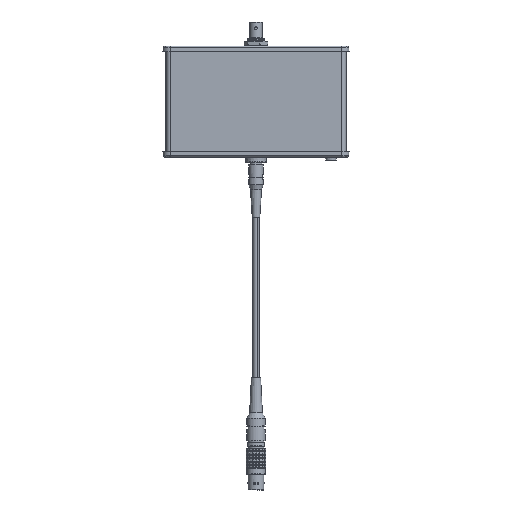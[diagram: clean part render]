
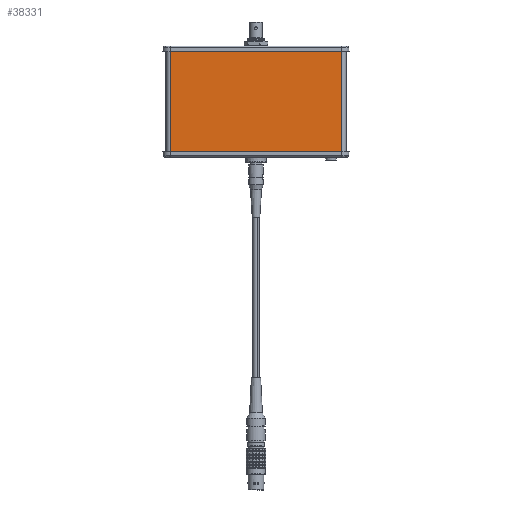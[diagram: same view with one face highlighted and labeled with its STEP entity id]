
A CAD part, front view. The second image highlights one B-rep face of the part: STEP entity #38331.
In plain terms, the highlighted planar face has unit normal (0, -1, 0).
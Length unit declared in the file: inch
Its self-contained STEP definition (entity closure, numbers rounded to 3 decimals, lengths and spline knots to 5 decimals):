
#12291 = VERTEX_POINT ( 'NONE', #71921 ) ;
#15560 = DIRECTION ( 'NONE',  ( 1., 0., 0. ) ) ;
#15673 = EDGE_CURVE ( 'NONE', #36241, #12291, #40127, .T. ) ;
#17485 = LINE ( 'NONE', #38500, #52951 ) ;
#19056 = ORIENTED_EDGE ( 'NONE', *, *, #65999, .T. ) ;
#20121 = LINE ( 'NONE', #34292, #89465 ) ;
#20718 = PLANE ( 'NONE',  #39226 ) ;
#21487 = EDGE_CURVE ( 'NONE', #40404, #64935, #17485, .T. ) ;
#28988 = DIRECTION ( 'NONE',  ( 0., 1., 0. ) ) ;
#30493 = LINE ( 'NONE', #60410, #61867 ) ;
#34292 = CARTESIAN_POINT ( 'NONE',  ( -2.5765, -0.68898, -1.5748 ) ) ;
#36241 = VERTEX_POINT ( 'NONE', #64483 ) ;
#38184 = VECTOR ( 'NONE', #63611, 39.37008 ) ;
#38331 = ADVANCED_FACE ( 'NONE', ( #64759 ), #20718, .F. ) ;
#38500 = CARTESIAN_POINT ( 'NONE',  ( 0., -0.68898, -1.5748 ) ) ;
#39226 = AXIS2_PLACEMENT_3D ( 'NONE', #73984, #28988, #88167 ) ;
#40127 = LINE ( 'NONE', #78721, #38184 ) ;
#40404 = VERTEX_POINT ( 'NONE', #73507 ) ;
#52951 = VECTOR ( 'NONE', #15560, 39.37008 ) ;
#58545 = ORIENTED_EDGE ( 'NONE', *, *, #15673, .F. ) ;
#60410 = CARTESIAN_POINT ( 'NONE',  ( 2.5765, -0.68898, 1.5748 ) ) ;
#61867 = VECTOR ( 'NONE', #75498, 39.37008 ) ;
#62317 = ORIENTED_EDGE ( 'NONE', *, *, #64609, .T. ) ;
#63611 = DIRECTION ( 'NONE',  ( 1., 0., 0. ) ) ;
#63712 = ORIENTED_EDGE ( 'NONE', *, *, #21487, .T. ) ;
#64483 = CARTESIAN_POINT ( 'NONE',  ( -2.5765, -0.68898, 1.5748 ) ) ;
#64609 = EDGE_CURVE ( 'NONE', #64935, #12291, #30493, .T. ) ;
#64759 = FACE_OUTER_BOUND ( 'NONE', #64825, .T. ) ;
#64825 = EDGE_LOOP ( 'NONE', ( #58545, #19056, #63712, #62317 ) ) ;
#64935 = VERTEX_POINT ( 'NONE', #77678 ) ;
#65999 = EDGE_CURVE ( 'NONE', #36241, #40404, #20121, .T. ) ;
#71921 = CARTESIAN_POINT ( 'NONE',  ( 2.5765, -0.68898, 1.5748 ) ) ;
#73507 = CARTESIAN_POINT ( 'NONE',  ( -2.5765, -0.68898, -1.5748 ) ) ;
#73984 = CARTESIAN_POINT ( 'NONE',  ( 0., -0.68898, 1.5748 ) ) ;
#75498 = DIRECTION ( 'NONE',  ( 0., 0., 1. ) ) ;
#77678 = CARTESIAN_POINT ( 'NONE',  ( 2.5765, -0.68898, -1.5748 ) ) ;
#78721 = CARTESIAN_POINT ( 'NONE',  ( 0., -0.68898, 1.5748 ) ) ;
#79283 = DIRECTION ( 'NONE',  ( 0., 0., -1. ) ) ;
#88167 = DIRECTION ( 'NONE',  ( 0., 0., 1. ) ) ;
#89465 = VECTOR ( 'NONE', #79283, 39.37008 ) ;
